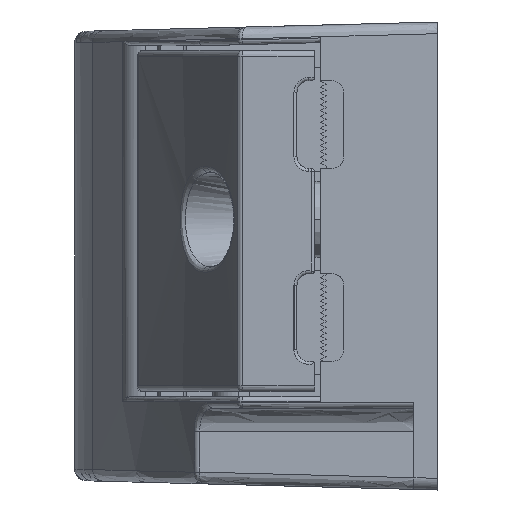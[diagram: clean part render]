
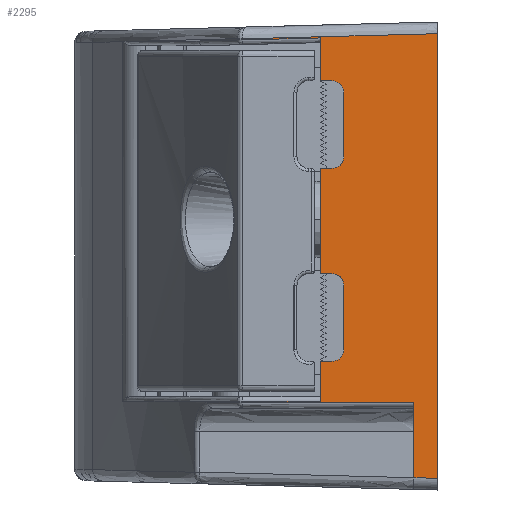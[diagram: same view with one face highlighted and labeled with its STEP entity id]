
A CAD part, left-side view. The second image highlights one B-rep face of the part: STEP entity #2295.
In plain terms, the highlighted free-form (B-spline) face has degree [1, 1] with [2, 2] control points.
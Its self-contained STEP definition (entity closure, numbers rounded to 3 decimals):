
#1955=CARTESIAN_POINT('',(-99.738,10.,-339.012));
#1956=VERTEX_POINT('',#1955);
#1970=CARTESIAN_POINT('',(-99.738,10.,-342.4));
#1971=VERTEX_POINT('',#1970);
#1979=CARTESIAN_POINT('',(-99.738,10.,-342.4));
#1980=CARTESIAN_POINT('',(-99.738,10.,-339.012));
#1981=B_SPLINE_CURVE_WITH_KNOTS('',1,(#1979,#1980),.UNSPECIFIED.,.F.,.F.,(2,2),(0.,3.388),.UNSPECIFIED.);
#1982=EDGE_CURVE('',#1971,#1956,#1981,.T.);
#2049=CARTESIAN_POINT('',(-99.738,10.,-315.012));
#2050=VERTEX_POINT('',#2049);
#2056=CARTESIAN_POINT('',(-99.738,10.,-311.362));
#2057=VERTEX_POINT('',#2056);
#2058=CARTESIAN_POINT('',(-99.738,10.,-315.012));
#2059=CARTESIAN_POINT('',(-99.738,10.,-311.362));
#2060=B_SPLINE_CURVE_WITH_KNOTS('',1,(#2058,#2059),.UNSPECIFIED.,.F.,.F.,(2,2),(0.,3.65),.UNSPECIFIED.);
#2061=EDGE_CURVE('',#2050,#2057,#2060,.T.);
#2086=CARTESIAN_POINT('',(-99.738,10.,-331.512));
#2087=VERTEX_POINT('',#2086);
#2093=CARTESIAN_POINT('',(-99.738,10.,-322.512));
#2094=VERTEX_POINT('',#2093);
#2095=CARTESIAN_POINT('',(-99.738,10.,-331.512));
#2096=CARTESIAN_POINT('',(-99.738,10.,-322.512));
#2097=B_SPLINE_CURVE_WITH_KNOTS('',1,(#2095,#2096),.UNSPECIFIED.,.F.,.F.,(2,2),(0.,9.),.UNSPECIFIED.);
#2098=EDGE_CURVE('',#2087,#2094,#2097,.T.);
#2146=CARTESIAN_POINT('',(-99.564,16.651,-349.));
#2147=CARTESIAN_POINT('',(-99.564,16.651,-311.));
#2148=CARTESIAN_POINT('',(-100.,-0.,-349.));
#2149=CARTESIAN_POINT('',(-100.,-0.,-311.));
#2150=B_SPLINE_SURFACE_WITH_KNOTS('',1,1,((#2146,#2147),(#2148,#2149)),.UNSPECIFIED.,.F.,.F.,.U.,(2,2),(2,2),(-16.657,0.),(3.858,41.859),.UNSPECIFIED.);
#2151=ORIENTED_EDGE('',*,*,#1982,.F.);
#2152=CARTESIAN_POINT('',(-99.564,16.651,-342.4));
#2153=VERTEX_POINT('',#2152);
#2154=CARTESIAN_POINT('',(-99.738,10.,-342.4));
#2155=CARTESIAN_POINT('',(-99.564,16.651,-342.4));
#2156=B_SPLINE_CURVE_WITH_KNOTS('',1,(#2154,#2155),.UNSPECIFIED.,.F.,.F.,(2,2),(0.,6.654),.UNSPECIFIED.);
#2157=EDGE_CURVE('',#1971,#2153,#2156,.T.);
#2158=ORIENTED_EDGE('',*,*,#2157,.T.);
#2159=CARTESIAN_POINT('',(-99.564,16.651,-342.5));
#2160=VERTEX_POINT('',#2159);
#2161=CARTESIAN_POINT('',(-99.564,16.651,-342.4));
#2162=CARTESIAN_POINT('',(-99.564,16.651,-342.433));
#2163=CARTESIAN_POINT('',(-99.564,16.651,-342.467));
#2164=CARTESIAN_POINT('',(-99.564,16.651,-342.5));
#2165=B_SPLINE_CURVE_WITH_KNOTS('',3,(#2161,#2162,#2163,#2164),.UNSPECIFIED.,.F.,.F.,(4,4),(0.,1.),.UNSPECIFIED.);
#2166=EDGE_CURVE('',#2153,#2160,#2165,.T.);
#2167=ORIENTED_EDGE('',*,*,#2166,.T.);
#2168=CARTESIAN_POINT('',(-99.948,2.,-342.5));
#2169=VERTEX_POINT('',#2168);
#2170=CARTESIAN_POINT('',(-99.564,16.651,-342.5));
#2171=CARTESIAN_POINT('',(-99.948,2.,-342.5));
#2172=B_SPLINE_CURVE_WITH_KNOTS('',1,(#2170,#2171),.UNSPECIFIED.,.F.,.F.,(2,2),(0.,14.656),.UNSPECIFIED.);
#2173=EDGE_CURVE('',#2160,#2169,#2172,.T.);
#2174=ORIENTED_EDGE('',*,*,#2173,.T.);
#2175=CARTESIAN_POINT('',(-99.948,2.,-348.948));
#2176=VERTEX_POINT('',#2175);
#2177=CARTESIAN_POINT('',(-99.948,2.,-348.948));
#2178=CARTESIAN_POINT('',(-99.948,2.,-342.5));
#2179=B_SPLINE_CURVE_WITH_KNOTS('',1,(#2177,#2178),.UNSPECIFIED.,.F.,.F.,(2,2),(0.,6.448),.UNSPECIFIED.);
#2180=EDGE_CURVE('',#2176,#2169,#2179,.T.);
#2181=ORIENTED_EDGE('',*,*,#2180,.F.);
#2182=CARTESIAN_POINT('',(-100.,-0.,-349.));
#2183=VERTEX_POINT('',#2182);
#2184=CARTESIAN_POINT('',(-99.948,2.,-348.948));
#2185=CARTESIAN_POINT('',(-100.,-0.,-349.));
#2186=B_SPLINE_CURVE_WITH_KNOTS('',1,(#2184,#2185),.UNSPECIFIED.,.F.,.F.,(2,2),(0.,2.001),.UNSPECIFIED.);
#2187=EDGE_CURVE('',#2176,#2183,#2186,.T.);
#2188=ORIENTED_EDGE('',*,*,#2187,.T.);
#2189=CARTESIAN_POINT('',(-100.,-0.,-311.));
#2190=VERTEX_POINT('',#2189);
#2191=CARTESIAN_POINT('',(-100.,-0.,-349.));
#2192=CARTESIAN_POINT('',(-100.,-0.,-311.));
#2193=B_SPLINE_CURVE_WITH_KNOTS('',1,(#2191,#2192),.UNSPECIFIED.,.F.,.F.,(2,2),(0.,38.001),.UNSPECIFIED.);
#2194=EDGE_CURVE('',#2183,#2190,#2193,.T.);
#2195=ORIENTED_EDGE('',*,*,#2194,.T.);
#2196=CARTESIAN_POINT('',(-99.564,16.651,-311.436));
#2197=VERTEX_POINT('',#2196);
#2198=CARTESIAN_POINT('',(-100.,-0.,-311.));
#2199=CARTESIAN_POINT('',(-99.564,16.651,-311.436));
#2200=B_SPLINE_CURVE_WITH_KNOTS('',1,(#2198,#2199),.UNSPECIFIED.,.F.,.F.,(2,2),(0.,16.663),.UNSPECIFIED.);
#2201=EDGE_CURVE('',#2190,#2197,#2200,.T.);
#2202=ORIENTED_EDGE('',*,*,#2201,.T.);
#2203=CARTESIAN_POINT('',(-99.564,16.651,-311.536));
#2204=VERTEX_POINT('',#2203);
#2205=CARTESIAN_POINT('',(-99.564,16.651,-311.436));
#2206=CARTESIAN_POINT('',(-99.564,16.651,-311.469));
#2207=CARTESIAN_POINT('',(-99.564,16.651,-311.503));
#2208=CARTESIAN_POINT('',(-99.564,16.651,-311.536));
#2209=B_SPLINE_CURVE_WITH_KNOTS('',3,(#2205,#2206,#2207,#2208),.UNSPECIFIED.,.F.,.F.,(4,4),(0.,1.),.UNSPECIFIED.);
#2210=EDGE_CURVE('',#2197,#2204,#2209,.T.);
#2211=ORIENTED_EDGE('',*,*,#2210,.T.);
#2212=CARTESIAN_POINT('',(-99.564,16.651,-311.536));
#2213=CARTESIAN_POINT('',(-99.738,10.,-311.362));
#2214=B_SPLINE_CURVE_WITH_KNOTS('',1,(#2212,#2213),.UNSPECIFIED.,.F.,.F.,(2,2),(0.,6.656),.UNSPECIFIED.);
#2215=EDGE_CURVE('',#2204,#2057,#2214,.T.);
#2216=ORIENTED_EDGE('',*,*,#2215,.T.);
#2217=ORIENTED_EDGE('',*,*,#2061,.F.);
#2218=CARTESIAN_POINT('',(-99.764,9.007,-315.012));
#2219=VERTEX_POINT('',#2218);
#2220=CARTESIAN_POINT('',(-99.738,10.,-315.012));
#2221=CARTESIAN_POINT('',(-99.764,9.007,-315.012));
#2222=B_SPLINE_CURVE_WITH_KNOTS('',1,(#2220,#2221),.UNSPECIFIED.,.F.,.F.,(2,2),(0.,0.994),.UNSPECIFIED.);
#2223=EDGE_CURVE('',#2050,#2219,#2222,.T.);
#2224=ORIENTED_EDGE('',*,*,#2223,.T.);
#2225=CARTESIAN_POINT('',(-99.79,8.007,-316.012));
#2226=VERTEX_POINT('',#2225);
#2227=CARTESIAN_POINT('',(-99.764,9.007,-315.012));
#2228=CARTESIAN_POINT('',(-99.779,8.421,-315.012));
#2229=CARTESIAN_POINT('',(-99.79,8.007,-315.426));
#2230=CARTESIAN_POINT('',(-99.79,8.007,-316.012));
#2231=(BOUNDED_CURVE()
B_SPLINE_CURVE(3,(#2227,#2228,#2229,#2230),.UNSPECIFIED.,.F.,.F.)
B_SPLINE_CURVE_WITH_KNOTS((4,4),(1.571,3.142),.UNSPECIFIED.)
CURVE()
GEOMETRIC_REPRESENTATION_ITEM()
RATIONAL_B_SPLINE_CURVE((1.,0.805,0.805,1.))
REPRESENTATION_ITEM(''));
#2232=EDGE_CURVE('',#2219,#2226,#2231,.T.);
#2233=ORIENTED_EDGE('',*,*,#2232,.T.);
#2234=CARTESIAN_POINT('',(-99.79,8.007,-321.512));
#2235=VERTEX_POINT('',#2234);
#2236=CARTESIAN_POINT('',(-99.79,8.007,-316.012));
#2237=CARTESIAN_POINT('',(-99.79,8.007,-321.512));
#2238=B_SPLINE_CURVE_WITH_KNOTS('',1,(#2236,#2237),.UNSPECIFIED.,.F.,.F.,(2,2),(0.,5.5),.UNSPECIFIED.);
#2239=EDGE_CURVE('',#2226,#2235,#2238,.T.);
#2240=ORIENTED_EDGE('',*,*,#2239,.T.);
#2241=CARTESIAN_POINT('',(-99.764,9.007,-322.512));
#2242=VERTEX_POINT('',#2241);
#2243=CARTESIAN_POINT('',(-99.79,8.007,-321.512));
#2244=CARTESIAN_POINT('',(-99.79,8.007,-322.098));
#2245=CARTESIAN_POINT('',(-99.779,8.421,-322.512));
#2246=CARTESIAN_POINT('',(-99.764,9.007,-322.512));
#2247=(BOUNDED_CURVE()
B_SPLINE_CURVE(3,(#2243,#2244,#2245,#2246),.UNSPECIFIED.,.F.,.F.)
B_SPLINE_CURVE_WITH_KNOTS((4,4),(3.142,4.712),.UNSPECIFIED.)
CURVE()
GEOMETRIC_REPRESENTATION_ITEM()
RATIONAL_B_SPLINE_CURVE((1.,0.805,0.805,1.))
REPRESENTATION_ITEM(''));
#2248=EDGE_CURVE('',#2235,#2242,#2247,.T.);
#2249=ORIENTED_EDGE('',*,*,#2248,.T.);
#2250=CARTESIAN_POINT('',(-99.764,9.007,-322.512));
#2251=CARTESIAN_POINT('',(-99.738,10.,-322.512));
#2252=B_SPLINE_CURVE_WITH_KNOTS('',1,(#2250,#2251),.UNSPECIFIED.,.F.,.F.,(2,2),(0.,0.994),.UNSPECIFIED.);
#2253=EDGE_CURVE('',#2242,#2094,#2252,.T.);
#2254=ORIENTED_EDGE('',*,*,#2253,.T.);
#2255=ORIENTED_EDGE('',*,*,#2098,.F.);
#2256=CARTESIAN_POINT('',(-99.764,9.007,-331.512));
#2257=VERTEX_POINT('',#2256);
#2258=CARTESIAN_POINT('',(-99.764,9.007,-331.512));
#2259=CARTESIAN_POINT('',(-99.738,10.,-331.512));
#2260=B_SPLINE_CURVE_WITH_KNOTS('',1,(#2258,#2259),.UNSPECIFIED.,.F.,.F.,(2,2),(0.,0.994),.UNSPECIFIED.);
#2261=EDGE_CURVE('',#2257,#2087,#2260,.T.);
#2262=ORIENTED_EDGE('',*,*,#2261,.F.);
#2263=CARTESIAN_POINT('',(-99.79,8.007,-332.512));
#2264=VERTEX_POINT('',#2263);
#2265=CARTESIAN_POINT('',(-99.79,8.007,-332.512));
#2266=CARTESIAN_POINT('',(-99.79,8.007,-331.927));
#2267=CARTESIAN_POINT('',(-99.779,8.421,-331.512));
#2268=CARTESIAN_POINT('',(-99.764,9.007,-331.512));
#2269=(BOUNDED_CURVE()
B_SPLINE_CURVE(3,(#2265,#2266,#2267,#2268),.UNSPECIFIED.,.F.,.F.)
B_SPLINE_CURVE_WITH_KNOTS((4,4),(3.142,4.712),.UNSPECIFIED.)
CURVE()
GEOMETRIC_REPRESENTATION_ITEM()
RATIONAL_B_SPLINE_CURVE((1.,0.805,0.805,1.))
REPRESENTATION_ITEM(''));
#2270=EDGE_CURVE('',#2264,#2257,#2269,.T.);
#2271=ORIENTED_EDGE('',*,*,#2270,.F.);
#2272=CARTESIAN_POINT('',(-99.79,8.007,-338.012));
#2273=VERTEX_POINT('',#2272);
#2274=CARTESIAN_POINT('',(-99.79,8.007,-338.012));
#2275=CARTESIAN_POINT('',(-99.79,8.007,-332.512));
#2276=B_SPLINE_CURVE_WITH_KNOTS('',1,(#2274,#2275),.UNSPECIFIED.,.F.,.F.,(2,2),(0.,5.5),.UNSPECIFIED.);
#2277=EDGE_CURVE('',#2273,#2264,#2276,.T.);
#2278=ORIENTED_EDGE('',*,*,#2277,.F.);
#2279=CARTESIAN_POINT('',(-99.764,9.007,-339.012));
#2280=VERTEX_POINT('',#2279);
#2281=CARTESIAN_POINT('',(-99.764,9.007,-339.012));
#2282=CARTESIAN_POINT('',(-99.779,8.421,-339.012));
#2283=CARTESIAN_POINT('',(-99.79,8.007,-338.598));
#2284=CARTESIAN_POINT('',(-99.79,8.007,-338.012));
#2285=(BOUNDED_CURVE()
B_SPLINE_CURVE(3,(#2281,#2282,#2283,#2284),.UNSPECIFIED.,.F.,.F.)
B_SPLINE_CURVE_WITH_KNOTS((4,4),(1.571,3.142),.UNSPECIFIED.)
CURVE()
GEOMETRIC_REPRESENTATION_ITEM()
RATIONAL_B_SPLINE_CURVE((1.,0.805,0.805,1.))
REPRESENTATION_ITEM(''));
#2286=EDGE_CURVE('',#2280,#2273,#2285,.T.);
#2287=ORIENTED_EDGE('',*,*,#2286,.F.);
#2288=CARTESIAN_POINT('',(-99.738,10.,-339.012));
#2289=CARTESIAN_POINT('',(-99.764,9.007,-339.012));
#2290=B_SPLINE_CURVE_WITH_KNOTS('',1,(#2288,#2289),.UNSPECIFIED.,.F.,.F.,(2,2),(0.,0.994),.UNSPECIFIED.);
#2291=EDGE_CURVE('',#1956,#2280,#2290,.T.);
#2292=ORIENTED_EDGE('',*,*,#2291,.F.);
#2293=EDGE_LOOP('',(#2151,#2158,#2167,#2174,#2181,#2188,#2195,#2202,#2211,#2216,#2217,#2224,#2233,#2240,#2249,#2254,#2255,#2262,#2271,#2278,#2287,#2292));
#2294=FACE_BOUND('',#2293,.T.);
#2295=ADVANCED_FACE('',(#2294),#2150,.T.);
